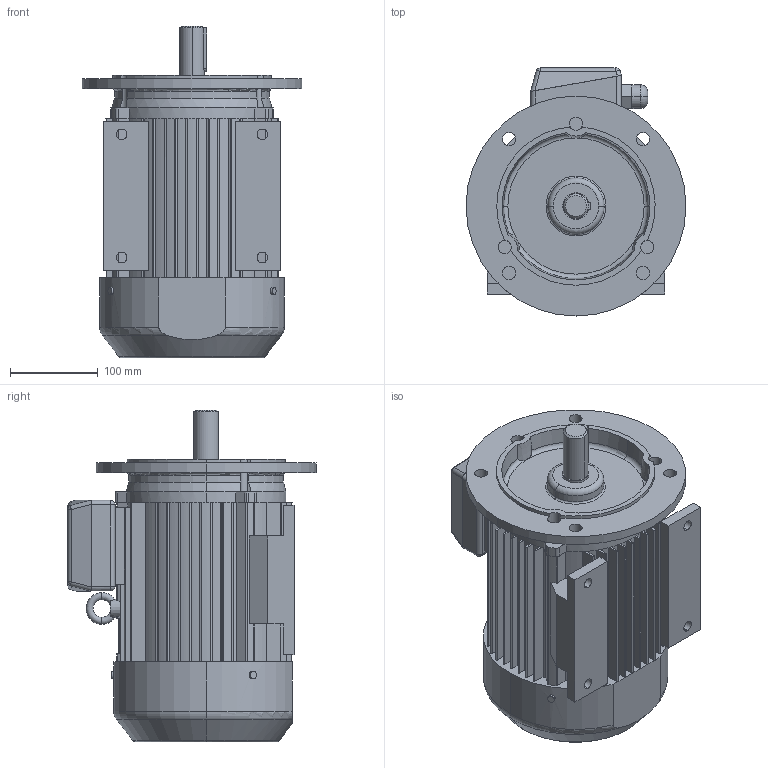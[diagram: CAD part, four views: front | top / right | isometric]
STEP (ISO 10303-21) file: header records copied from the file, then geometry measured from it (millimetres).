
FILE_DESCRIPTION (( 'STEP AP203' ), '1' );
FILE_NAME ('3SIEL100L2,6.STEP', '2016-02-08T12:12:01', ( 'Indukta' ), ( 'Celma Indukta S.A.' ), 'SwSTEP 2.0', 'SolidWorks 2003064', '' );
FILE_SCHEMA (( 'CONFIG_CONTROL_DESIGN' ));
Length unit declared in the file: millimetre
Products named in the file (1): 3SIEL100L2,6
Bounding box: 250 x 282 x 377 mm (x, y, z)
Volume: 10008104.1 mm3; surface area: 543418.1 mm2
Topology: 1 solids, 1 shells, 615 faces, 1689 edges, 1078 vertices
Faces by surface type: plane 299, cylinder 189, bspline 78, torus 23, cone 18, sphere 8
Entity records: 26189 total; most frequent: CARTESIAN_POINT 10713, ORIENTED_EDGE 3362, DIRECTION 3055, EDGE_CURVE 1681, VERTEX_POINT 1078, AXIS2_PLACEMENT_3D 1056, LINE 943, VECTOR 943
